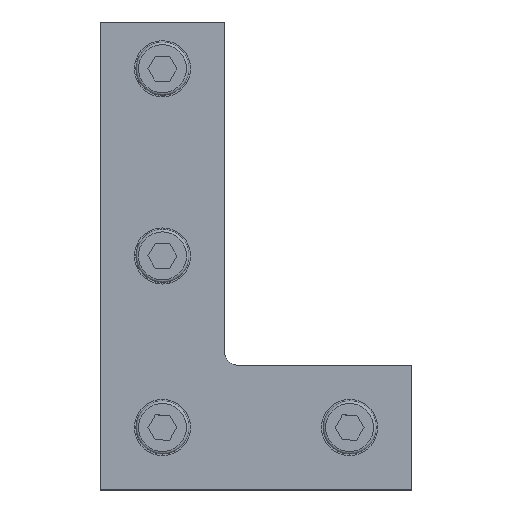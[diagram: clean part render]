
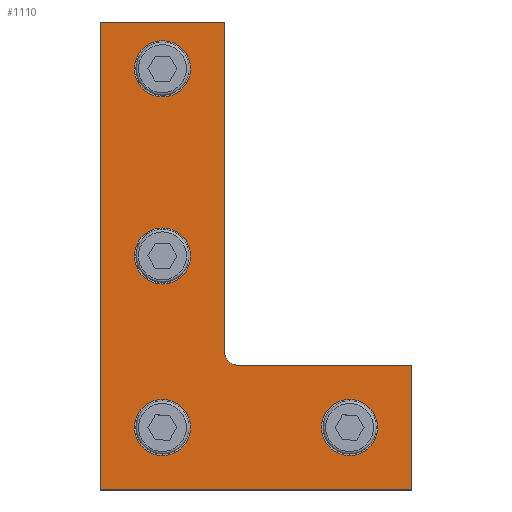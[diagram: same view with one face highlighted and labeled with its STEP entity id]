
A CAD part, top view. The second image highlights one B-rep face of the part: STEP entity #1110.
In plain terms, the highlighted planar face has unit normal (0, 0, 1).
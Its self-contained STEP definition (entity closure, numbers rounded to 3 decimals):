
#78=FACE_BOUND('',#217,.T.);
#79=FACE_BOUND('',#218,.T.);
#80=FACE_BOUND('',#219,.T.);
#81=FACE_BOUND('',#220,.T.);
#109=PLANE('',#1241);
#148=FACE_OUTER_BOUND('',#216,.T.);
#216=EDGE_LOOP('',(#816,#817,#818,#819,#820,#821,#822));
#217=EDGE_LOOP('',(#823));
#218=EDGE_LOOP('',(#824));
#219=EDGE_LOOP('',(#825));
#220=EDGE_LOOP('',(#826));
#298=LINE('',#1734,#387);
#299=LINE('',#1757,#388);
#302=LINE('',#1763,#391);
#305=LINE('',#1769,#394);
#308=LINE('',#1775,#397);
#311=LINE('',#1780,#400);
#387=VECTOR('',#1371,10.);
#388=VECTOR('',#1398,10.);
#391=VECTOR('',#1403,10.);
#394=VECTOR('',#1408,10.);
#397=VECTOR('',#1413,10.);
#400=VECTOR('',#1418,10.);
#473=CIRCLE('',#1222,2.);
#475=CIRCLE('',#1226,2.75);
#477=CIRCLE('',#1229,2.75);
#479=CIRCLE('',#1232,2.75);
#481=CIRCLE('',#1235,2.75);
#531=VERTEX_POINT('',#1724);
#532=VERTEX_POINT('',#1726);
#534=VERTEX_POINT('',#1732);
#536=VERTEX_POINT('',#1738);
#538=VERTEX_POINT('',#1743);
#540=VERTEX_POINT('',#1748);
#542=VERTEX_POINT('',#1753);
#543=VERTEX_POINT('',#1756);
#545=VERTEX_POINT('',#1762);
#547=VERTEX_POINT('',#1768);
#549=VERTEX_POINT('',#1774);
#636=EDGE_CURVE('',#531,#532,#473,.T.);
#640=EDGE_CURVE('',#534,#531,#298,.T.);
#642=EDGE_CURVE('',#536,#536,#475,.T.);
#644=EDGE_CURVE('',#538,#538,#477,.T.);
#646=EDGE_CURVE('',#540,#540,#479,.T.);
#648=EDGE_CURVE('',#542,#542,#481,.T.);
#649=EDGE_CURVE('',#543,#534,#299,.T.);
#652=EDGE_CURVE('',#532,#545,#302,.T.);
#655=EDGE_CURVE('',#545,#547,#305,.T.);
#658=EDGE_CURVE('',#547,#549,#308,.T.);
#661=EDGE_CURVE('',#549,#543,#311,.T.);
#816=ORIENTED_EDGE('',*,*,#649,.F.);
#817=ORIENTED_EDGE('',*,*,#661,.F.);
#818=ORIENTED_EDGE('',*,*,#658,.F.);
#819=ORIENTED_EDGE('',*,*,#655,.F.);
#820=ORIENTED_EDGE('',*,*,#652,.F.);
#821=ORIENTED_EDGE('',*,*,#636,.F.);
#822=ORIENTED_EDGE('',*,*,#640,.F.);
#823=ORIENTED_EDGE('',*,*,#642,.T.);
#824=ORIENTED_EDGE('',*,*,#644,.T.);
#825=ORIENTED_EDGE('',*,*,#646,.T.);
#826=ORIENTED_EDGE('',*,*,#648,.T.);
#1110=ADVANCED_FACE('',(#148,#78,#79,#80,#81),#109,.T.);
#1222=AXIS2_PLACEMENT_3D('',#1727,#1364,#1365);
#1226=AXIS2_PLACEMENT_3D('',#1739,#1376,#1377);
#1229=AXIS2_PLACEMENT_3D('',#1744,#1382,#1383);
#1232=AXIS2_PLACEMENT_3D('',#1749,#1388,#1389);
#1235=AXIS2_PLACEMENT_3D('',#1754,#1394,#1395);
#1241=AXIS2_PLACEMENT_3D('',#1782,#1420,#1421);
#1364=DIRECTION('center_axis',(0.,0.,1.));
#1365=DIRECTION('ref_axis',(-0.707,-0.707,0.));
#1371=DIRECTION('',(0.,-1.,0.));
#1376=DIRECTION('center_axis',(0.,0.,-1.));
#1377=DIRECTION('ref_axis',(1.,0.,0.));
#1382=DIRECTION('center_axis',(0.,0.,-1.));
#1383=DIRECTION('ref_axis',(1.,0.,0.));
#1388=DIRECTION('center_axis',(0.,0.,-1.));
#1389=DIRECTION('ref_axis',(1.,0.,0.));
#1394=DIRECTION('center_axis',(0.,0.,-1.));
#1395=DIRECTION('ref_axis',(1.,0.,0.));
#1398=DIRECTION('',(1.,0.,0.));
#1403=DIRECTION('',(1.,0.,0.));
#1408=DIRECTION('',(0.,-1.,0.));
#1413=DIRECTION('',(-1.,0.,0.));
#1418=DIRECTION('',(0.,1.,0.));
#1420=DIRECTION('center_axis',(0.,0.,1.));
#1421=DIRECTION('ref_axis',(1.,0.,0.));
#1724=CARTESIAN_POINT('',(20.,22.,3.));
#1726=CARTESIAN_POINT('',(22.,20.,3.));
#1727=CARTESIAN_POINT('Origin',(22.,22.,3.));
#1732=CARTESIAN_POINT('',(20.,75.,3.));
#1734=CARTESIAN_POINT('',(20.,75.,3.));
#1738=CARTESIAN_POINT('',(42.75,10.,3.));
#1739=CARTESIAN_POINT('Origin',(40.,10.,3.));
#1743=CARTESIAN_POINT('',(12.75,10.,3.));
#1744=CARTESIAN_POINT('Origin',(10.,10.,3.));
#1748=CARTESIAN_POINT('',(12.75,37.5,3.));
#1749=CARTESIAN_POINT('Origin',(10.,37.5,3.));
#1753=CARTESIAN_POINT('',(12.75,67.5,3.));
#1754=CARTESIAN_POINT('Origin',(10.,67.5,3.));
#1756=CARTESIAN_POINT('',(0.,75.,3.));
#1757=CARTESIAN_POINT('',(0.,75.,3.));
#1762=CARTESIAN_POINT('',(50.,20.,3.));
#1763=CARTESIAN_POINT('',(20.,20.,3.));
#1768=CARTESIAN_POINT('',(50.,0.,3.));
#1769=CARTESIAN_POINT('',(50.,20.,3.));
#1774=CARTESIAN_POINT('',(0.,0.,3.));
#1775=CARTESIAN_POINT('',(50.,0.,3.));
#1780=CARTESIAN_POINT('',(0.,0.,3.));
#1782=CARTESIAN_POINT('Origin',(18.4,30.9,3.));
